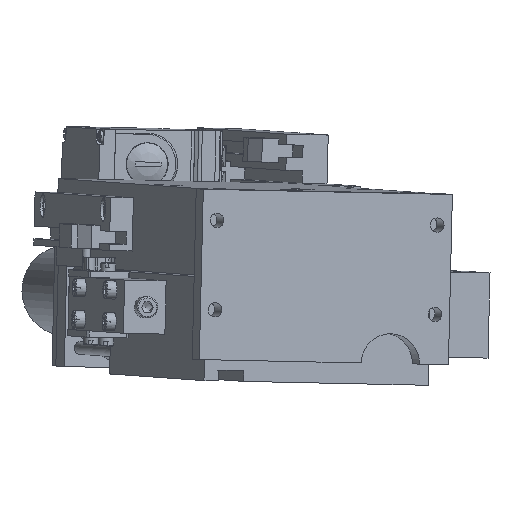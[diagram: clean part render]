
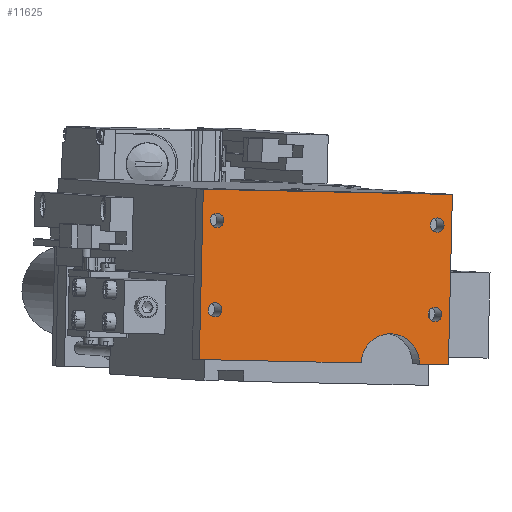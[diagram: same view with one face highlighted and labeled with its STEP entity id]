
A CAD part, front view. The second image highlights one B-rep face of the part: STEP entity #11625.
In plain terms, the highlighted planar face has unit normal (0.222, -0.975, -0.016).
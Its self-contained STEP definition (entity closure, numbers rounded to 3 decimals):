
#11289=CARTESIAN_POINT('',(80.492,-100.339,95.57));
#11290=VERTEX_POINT('',#11289);
#11291=CARTESIAN_POINT('',(77.252,-101.077,95.638));
#11292=DIRECTION('',(-0.222,0.975,0.016));
#11293=DIRECTION('',(0.975,0.222,-0.02));
#11294=AXIS2_PLACEMENT_3D('',#11291,#11292,#11293);
#11295=CIRCLE('',#11294,3.324);
#11296=EDGE_CURVE('',#11290,#11290,#11295,.T.);
#11330=CARTESIAN_POINT('',(-22.843,-123.858,97.736));
#11331=VERTEX_POINT('',#11330);
#11332=CARTESIAN_POINT('',(-26.083,-124.596,97.803));
#11333=DIRECTION('',(-0.222,0.975,0.016));
#11334=DIRECTION('',(0.975,0.222,-0.02));
#11335=AXIS2_PLACEMENT_3D('',#11332,#11333,#11334);
#11336=CIRCLE('',#11335,3.324);
#11337=EDGE_CURVE('',#11331,#11331,#11336,.T.);
#11387=CARTESIAN_POINT('',(81.474,-100.788,137.556));
#11388=VERTEX_POINT('',#11387);
#11389=CARTESIAN_POINT('',(78.234,-101.525,137.624));
#11390=DIRECTION('',(-0.222,0.975,0.016));
#11391=DIRECTION('',(0.975,0.222,-0.02));
#11392=AXIS2_PLACEMENT_3D('',#11389,#11390,#11391);
#11393=CIRCLE('',#11392,3.324);
#11394=EDGE_CURVE('',#11388,#11388,#11393,.T.);
#11436=CARTESIAN_POINT('',(-21.861,-124.307,139.722));
#11437=VERTEX_POINT('',#11436);
#11438=CARTESIAN_POINT('',(-25.101,-125.044,139.79));
#11439=DIRECTION('',(-0.222,0.975,0.016));
#11440=DIRECTION('',(0.975,0.222,-0.02));
#11441=AXIS2_PLACEMENT_3D('',#11438,#11439,#11440);
#11442=CIRCLE('',#11441,3.324);
#11443=EDGE_CURVE('',#11437,#11437,#11442,.T.);
#11453=CARTESIAN_POINT('',(85.397,-100.127,151.976));
#11454=VERTEX_POINT('',#11453);
#11455=CARTESIAN_POINT('',(83.527,-99.273,72.003));
#11456=VERTEX_POINT('',#11455);
#11457=CARTESIAN_POINT('',(85.397,-100.127,151.976));
#11458=DIRECTION('',(-0.023,0.011,-1.));
#11459=VECTOR('',#11458,80.0);
#11460=LINE('',#11457,#11459);
#11461=EDGE_CURVE('',#11454,#11456,#11460,.T.);
#11484=CARTESIAN_POINT('',(69.879,-102.379,72.289));
#11485=VERTEX_POINT('',#11484);
#11486=CARTESIAN_POINT('',(83.527,-99.273,72.003));
#11487=DIRECTION('',(-0.975,-0.222,0.02));
#11488=VECTOR('',#11487,14.);
#11489=LINE('',#11486,#11488);
#11490=EDGE_CURVE('',#11456,#11485,#11489,.T.);
#11508=CARTESIAN_POINT('',(42.583,-108.591,72.861));
#11509=VERTEX_POINT('',#11508);
#11510=CARTESIAN_POINT('',(56.231,-105.485,72.575));
#11511=DIRECTION('',(0.222,-0.975,-0.016));
#11512=DIRECTION('',(0.975,0.222,-0.02));
#11513=AXIS2_PLACEMENT_3D('',#11510,#11511,#11512);
#11514=CIRCLE('',#11513,14.);
#11515=EDGE_CURVE('',#11485,#11509,#11514,.T.);
#11533=CARTESIAN_POINT('',(-33.456,-125.898,74.454));
#11534=VERTEX_POINT('',#11533);
#11535=CARTESIAN_POINT('',(42.583,-108.591,72.861));
#11536=DIRECTION('',(-0.975,-0.222,0.02));
#11537=VECTOR('',#11536,78.0);
#11538=LINE('',#11535,#11537);
#11539=EDGE_CURVE('',#11509,#11534,#11538,.T.);
#11557=CARTESIAN_POINT('',(-31.586,-126.752,154.428));
#11558=VERTEX_POINT('',#11557);
#11559=CARTESIAN_POINT('',(-33.456,-125.898,74.454));
#11560=DIRECTION('',(0.023,-0.011,1.));
#11561=VECTOR('',#11560,80.0);
#11562=LINE('',#11559,#11561);
#11563=EDGE_CURVE('',#11534,#11558,#11562,.T.);
#11581=CARTESIAN_POINT('',(-31.586,-126.752,154.428));
#11582=DIRECTION('',(0.975,0.222,-0.02));
#11583=VECTOR('',#11582,120.0);
#11584=LINE('',#11581,#11583);
#11585=EDGE_CURVE('',#11558,#11454,#11584,.T.);
#11600=CARTESIAN_POINT('',(27.153,-112.732,112.503));
#11601=DIRECTION('',(0.222,-0.975,-0.016));
#11602=DIRECTION('',(0.975,0.222,-0.02));
#11603=AXIS2_PLACEMENT_3D('',#11600,#11601,#11602);
#11604=PLANE('',#11603);
#11605=ORIENTED_EDGE('',*,*,#11461,.F.);
#11606=ORIENTED_EDGE('',*,*,#11585,.F.);
#11607=ORIENTED_EDGE('',*,*,#11563,.F.);
#11608=ORIENTED_EDGE('',*,*,#11539,.F.);
#11609=ORIENTED_EDGE('',*,*,#11515,.F.);
#11610=ORIENTED_EDGE('',*,*,#11490,.F.);
#11611=EDGE_LOOP('',(#11605,#11606,#11607,#11608,#11609,#11610));
#11612=FACE_OUTER_BOUND('',#11611,.T.);
#11613=ORIENTED_EDGE('',*,*,#11296,.T.);
#11614=EDGE_LOOP('',(#11613));
#11615=FACE_BOUND('',#11614,.T.);
#11616=ORIENTED_EDGE('',*,*,#11337,.T.);
#11617=EDGE_LOOP('',(#11616));
#11618=FACE_BOUND('',#11617,.T.);
#11619=ORIENTED_EDGE('',*,*,#11394,.T.);
#11620=EDGE_LOOP('',(#11619));
#11621=FACE_BOUND('',#11620,.T.);
#11622=ORIENTED_EDGE('',*,*,#11443,.T.);
#11623=EDGE_LOOP('',(#11622));
#11624=FACE_BOUND('',#11623,.T.);
#11625=ADVANCED_FACE('',(#11612,#11615,#11618,#11621,#11624),#11604,.T.);
